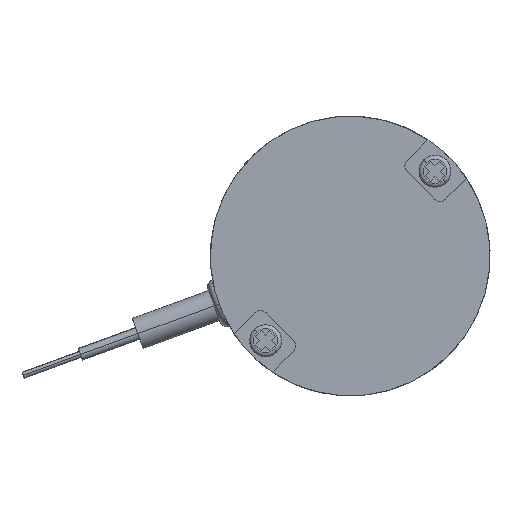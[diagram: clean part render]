
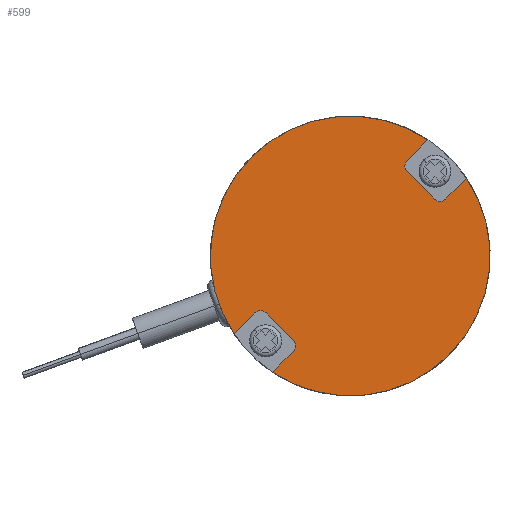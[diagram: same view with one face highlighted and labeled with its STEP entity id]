
A CAD part, left-side view. The second image highlights one B-rep face of the part: STEP entity #599.
In plain terms, the highlighted planar face has unit normal (-1, 0, 0).
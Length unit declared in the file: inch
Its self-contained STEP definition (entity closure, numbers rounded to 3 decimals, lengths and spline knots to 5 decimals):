
#26 = ORIENTED_EDGE ( 'NONE', *, *, #192, .F. ) ;
#133 = CARTESIAN_POINT ( 'NONE',  ( 0., 0., 0. ) ) ;
#157 = CIRCLE ( 'NONE', #706, 0.6876 ) ;
#165 = VECTOR ( 'NONE', #4441, 39.37008 ) ;
#171 = DIRECTION ( 'NONE',  ( 0., 0.707, 0.707 ) ) ;
#190 = CARTESIAN_POINT ( 'NONE',  ( 0., 0.57156, -0.38225 ) ) ;
#192 = EDGE_CURVE ( 'NONE', #2109, #1679, #764, .T. ) ;
#198 = VERTEX_POINT ( 'NONE', #2642 ) ;
#341 = LINE ( 'NONE', #1865, #165 ) ;
#422 = VERTEX_POINT ( 'NONE', #4208 ) ;
#452 = ORIENTED_EDGE ( 'NONE', *, *, #4613, .F. ) ;
#465 = CARTESIAN_POINT ( 'NONE',  ( 0., 0., 0. ) ) ;
#505 = EDGE_CURVE ( 'NONE', #2918, #839, #4212, .T. ) ;
#513 = AXIS2_PLACEMENT_3D ( 'NONE', #4085, #3708, #1135 ) ;
#516 = DIRECTION ( 'NONE',  ( 0., -0.707, -0.707 ) ) ;
#517 = VERTEX_POINT ( 'NONE', #1735 ) ;
#536 = ORIENTED_EDGE ( 'NONE', *, *, #505, .F. ) ;
#553 = EDGE_CURVE ( 'NONE', #517, #422, #2022, .T. ) ;
#556 = CARTESIAN_POINT ( 'NONE',  ( 0., -0.38225, 0.57156 ) ) ;
#599 = ADVANCED_FACE ( 'NONE', ( #3122 ), #3352, .F. ) ;
#600 = AXIS2_PLACEMENT_3D ( 'NONE', #2750, #3066, #3480 ) ;
#619 = ORIENTED_EDGE ( 'NONE', *, *, #2893, .F. ) ;
#706 = AXIS2_PLACEMENT_3D ( 'NONE', #3652, #1071, #3669 ) ;
#764 = LINE ( 'NONE', #1101, #3581 ) ;
#819 = CARTESIAN_POINT ( 'NONE',  ( 0., 0.48621, 0.48621 ) ) ;
#839 = VERTEX_POINT ( 'NONE', #2760 ) ;
#869 = CIRCLE ( 'NONE', #887, 0.03937 ) ;
#887 = AXIS2_PLACEMENT_3D ( 'NONE', #2047, #3160, #3529 ) ;
#898 = CARTESIAN_POINT ( 'NONE',  ( 0., -0.2802, 0.41382 ) ) ;
#1071 = DIRECTION ( 'NONE',  ( 1., 0., 0. ) ) ;
#1101 = CARTESIAN_POINT ( 'NONE',  ( 0., -0.4695, 0.2802 ) ) ;
#1116 = CARTESIAN_POINT ( 'NONE',  ( 0., -0.4695, 0.2802 ) ) ;
#1127 = ORIENTED_EDGE ( 'NONE', *, *, #2839, .F. ) ;
#1135 = DIRECTION ( 'NONE',  ( 0., -0.707, -0.707 ) ) ;
#1315 = VERTEX_POINT ( 'NONE', #1847 ) ;
#1497 = EDGE_LOOP ( 'NONE', ( #2450, #536, #452, #4728, #3454, #1793, #619, #3058, #3236, #3214, #1127, #26, #4685, #2147 ) ) ;
#1515 = CARTESIAN_POINT ( 'NONE',  ( 0., 0.41382, -0.2802 ) ) ;
#1560 = VECTOR ( 'NONE', #171, 39.37008 ) ;
#1584 = DIRECTION ( 'NONE',  ( 1., 0., 0. ) ) ;
#1621 = CIRCLE ( 'NONE', #2556, 0.6876 ) ;
#1635 = EDGE_CURVE ( 'NONE', #3377, #517, #4205, .T. ) ;
#1679 = VERTEX_POINT ( 'NONE', #3195 ) ;
#1735 = CARTESIAN_POINT ( 'NONE',  ( 0., 0.2802, -0.4695 ) ) ;
#1750 = EDGE_CURVE ( 'NONE', #1762, #2109, #2769, .T. ) ;
#1761 = DIRECTION ( 'NONE',  ( 0., -0.707, 0.707 ) ) ;
#1762 = VERTEX_POINT ( 'NONE', #3339 ) ;
#1793 = ORIENTED_EDGE ( 'NONE', *, *, #2187, .F. ) ;
#1847 = CARTESIAN_POINT ( 'NONE',  ( 0., 0.4695, -0.2802 ) ) ;
#1856 = CARTESIAN_POINT ( 'NONE',  ( 0., -0.44166, 0.30804 ) ) ;
#1865 = CARTESIAN_POINT ( 'NONE',  ( 0., 0.4695, -0.2802 ) ) ;
#1877 = VERTEX_POINT ( 'NONE', #4076 ) ;
#1927 = VERTEX_POINT ( 'NONE', #1515 ) ;
#2022 = CIRCLE ( 'NONE', #4539, 0.03937 ) ;
#2047 = CARTESIAN_POINT ( 'NONE',  ( 0., -0.30804, 0.44166 ) ) ;
#2109 = VERTEX_POINT ( 'NONE', #1116 ) ;
#2147 = ORIENTED_EDGE ( 'NONE', *, *, #2279, .F. ) ;
#2187 = EDGE_CURVE ( 'NONE', #1927, #1315, #3794, .T. ) ;
#2227 = DIRECTION ( 'NONE',  ( -1., 0., 0. ) ) ;
#2279 = EDGE_CURVE ( 'NONE', #1877, #1762, #2360, .T. ) ;
#2360 = LINE ( 'NONE', #898, #3910 ) ;
#2368 = EDGE_CURVE ( 'NONE', #198, #3377, #1621, .T. ) ;
#2450 = ORIENTED_EDGE ( 'NONE', *, *, #2462, .F. ) ;
#2462 = EDGE_CURVE ( 'NONE', #839, #1877, #869, .T. ) ;
#2556 = AXIS2_PLACEMENT_3D ( 'NONE', #133, #1584, #3050 ) ;
#2561 = DIRECTION ( 'NONE',  ( 0., 0.707, 0.707 ) ) ;
#2616 = DIRECTION ( 'NONE',  ( 0., -0.707, -0.707 ) ) ;
#2642 = CARTESIAN_POINT ( 'NONE',  ( 0., -0.48621, -0.48621 ) ) ;
#2750 = CARTESIAN_POINT ( 'NONE',  ( 0., 0., 0. ) ) ;
#2760 = CARTESIAN_POINT ( 'NONE',  ( 0., -0.2802, 0.4695 ) ) ;
#2769 = CIRCLE ( 'NONE', #3161, 0.03937 ) ;
#2839 = EDGE_CURVE ( 'NONE', #1679, #198, #3621, .T. ) ;
#2889 = VERTEX_POINT ( 'NONE', #190 ) ;
#2893 = EDGE_CURVE ( 'NONE', #422, #1927, #4593, .T. ) ;
#2907 = CARTESIAN_POINT ( 'NONE',  ( 0., 0.38225, -0.57156 ) ) ;
#2918 = VERTEX_POINT ( 'NONE', #556 ) ;
#3005 = DIRECTION ( 'NONE',  ( 0., 0.707, 0.707 ) ) ;
#3028 = DIRECTION ( 'NONE',  ( 0., -0.707, -0.707 ) ) ;
#3050 = DIRECTION ( 'NONE',  ( 0., -0.707, -0.707 ) ) ;
#3058 = ORIENTED_EDGE ( 'NONE', *, *, #553, .F. ) ;
#3066 = DIRECTION ( 'NONE',  ( 1., 0., 0. ) ) ;
#3071 = AXIS2_PLACEMENT_3D ( 'NONE', #3342, #2227, #3005 ) ;
#3122 = FACE_OUTER_BOUND ( 'NONE', #1497, .T. ) ;
#3160 = DIRECTION ( 'NONE',  ( -1., 0., 0. ) ) ;
#3161 = AXIS2_PLACEMENT_3D ( 'NONE', #1856, #4739, #2561 ) ;
#3195 = CARTESIAN_POINT ( 'NONE',  ( 0., -0.57156, 0.38225 ) ) ;
#3214 = ORIENTED_EDGE ( 'NONE', *, *, #2368, .F. ) ;
#3236 = ORIENTED_EDGE ( 'NONE', *, *, #1635, .F. ) ;
#3307 = DIRECTION ( 'NONE',  ( -1., 0., 0. ) ) ;
#3321 = EDGE_CURVE ( 'NONE', #2889, #3690, #4704, .T. ) ;
#3339 = CARTESIAN_POINT ( 'NONE',  ( 0., -0.41382, 0.2802 ) ) ;
#3342 = CARTESIAN_POINT ( 'NONE',  ( 0., 0.44166, -0.30804 ) ) ;
#3346 = VECTOR ( 'NONE', #4657, 39.37008 ) ;
#3352 = PLANE ( 'NONE',  #513 ) ;
#3377 = VERTEX_POINT ( 'NONE', #2907 ) ;
#3381 = DIRECTION ( 'NONE',  ( 1., 0., 0. ) ) ;
#3454 = ORIENTED_EDGE ( 'NONE', *, *, #3570, .F. ) ;
#3480 = DIRECTION ( 'NONE',  ( 0., -0.707, -0.707 ) ) ;
#3529 = DIRECTION ( 'NONE',  ( 0., -0.707, -0.707 ) ) ;
#3570 = EDGE_CURVE ( 'NONE', #1315, #2889, #341, .T. ) ;
#3581 = VECTOR ( 'NONE', #1761, 39.37008 ) ;
#3621 = CIRCLE ( 'NONE', #4178, 0.6876 ) ;
#3652 = CARTESIAN_POINT ( 'NONE',  ( 0., 0., 0. ) ) ;
#3669 = DIRECTION ( 'NONE',  ( 0., -0.707, -0.707 ) ) ;
#3690 = VERTEX_POINT ( 'NONE', #819 ) ;
#3708 = DIRECTION ( 'NONE',  ( 1., 0., 0. ) ) ;
#3794 = CIRCLE ( 'NONE', #3071, 0.03937 ) ;
#3910 = VECTOR ( 'NONE', #516, 39.37008 ) ;
#3916 = CARTESIAN_POINT ( 'NONE',  ( 0., 0.30804, -0.44166 ) ) ;
#3931 = CARTESIAN_POINT ( 'NONE',  ( 0., -0.2802, 0.4695 ) ) ;
#3944 = CARTESIAN_POINT ( 'NONE',  ( 0., 0.2802, -0.4695 ) ) ;
#4076 = CARTESIAN_POINT ( 'NONE',  ( 0., -0.2802, 0.41382 ) ) ;
#4085 = CARTESIAN_POINT ( 'NONE',  ( 0., 0., 0. ) ) ;
#4178 = AXIS2_PLACEMENT_3D ( 'NONE', #465, #3381, #3028 ) ;
#4205 = LINE ( 'NONE', #3944, #3346 ) ;
#4208 = CARTESIAN_POINT ( 'NONE',  ( 0., 0.2802, -0.41382 ) ) ;
#4212 = LINE ( 'NONE', #3931, #4262 ) ;
#4262 = VECTOR ( 'NONE', #4639, 39.37008 ) ;
#4441 = DIRECTION ( 'NONE',  ( 0., 0.707, -0.707 ) ) ;
#4539 = AXIS2_PLACEMENT_3D ( 'NONE', #3916, #3307, #2616 ) ;
#4564 = CARTESIAN_POINT ( 'NONE',  ( 0., 0.41382, -0.2802 ) ) ;
#4593 = LINE ( 'NONE', #4564, #1560 ) ;
#4613 = EDGE_CURVE ( 'NONE', #3690, #2918, #157, .T. ) ;
#4639 = DIRECTION ( 'NONE',  ( 0., 0.707, -0.707 ) ) ;
#4657 = DIRECTION ( 'NONE',  ( 0., -0.707, 0.707 ) ) ;
#4685 = ORIENTED_EDGE ( 'NONE', *, *, #1750, .F. ) ;
#4704 = CIRCLE ( 'NONE', #600, 0.6876 ) ;
#4728 = ORIENTED_EDGE ( 'NONE', *, *, #3321, .F. ) ;
#4739 = DIRECTION ( 'NONE',  ( -1., 0., 0. ) ) ;
